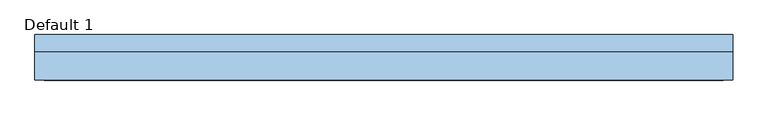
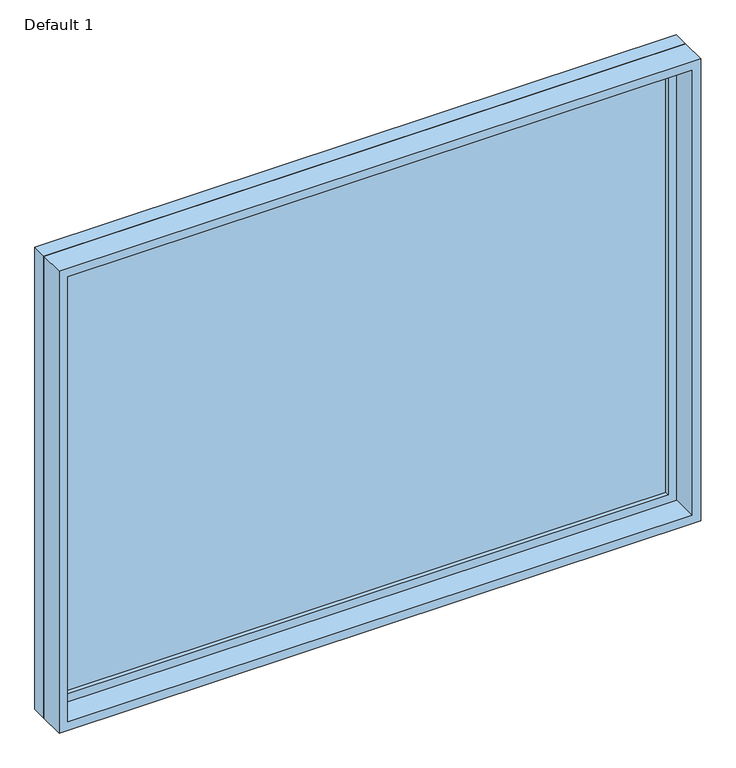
"""IFC4 building model written with IfcOpenShell, lengths in millimetres: window geometry, Planitar-Fixed : Default 1."""

import ifcopenshell
import ifcopenshell.guid

model = None  # the IFC model being written
_history = None  # IfcOwnerHistory: only IFC2X3 demands one
_inside = {}  # id of a spatial element -> (the spatial element, [elements in it])
_under = {}  # id of a project, library or spatial element -> (it, [spatial elements below it])
_declared = {}  # id of a project -> (the project, [libraries it declares])
_typed = {}  # id of a type object -> (the type object, [elements of that type])
_made_of = {}  # id of a material, layer set ... -> (it, [elements and type objects made of it])


def new_model(schema):
    """Start an empty IFC model of exactly this schema.

    Asked for "IFC4X3", IfcOpenShell would pick the latest addendum, in which some entities
    have other attributes; the version numbers below select the first issue.
    IFC2X3 requires an IfcOwnerHistory on every rooted entity: one is made here for all.
    """
    global model, _history
    if schema == "IFC4X3":
        model = ifcopenshell.file(schema_version=(4, 3, 0, 0))
    else:
        model = ifcopenshell.file(schema=schema)
    _inside.clear()
    _under.clear()
    _declared.clear()
    _typed.clear()
    _made_of.clear()
    _history = None
    if model.schema == "IFC2X3":
        org = make("IfcOrganization", Name="unknown")
        user = make(
            "IfcPersonAndOrganization",
            ThePerson=make("IfcPerson", FamilyName="unknown"),
            TheOrganization=org,
        )
        app = make(
            "IfcApplication",
            ApplicationDeveloper=org,
            Version="unknown",
            ApplicationFullName="unknown",
            ApplicationIdentifier="unknown",
        )
        _history = make(
            "IfcOwnerHistory",
            OwningUser=user,
            OwningApplication=app,
            ChangeAction="ADDED",
            CreationDate=0,
        )
    return model


def make(cls, **values):
    """One entity of the class cls with the attributes given. An attribute that is None is left unset."""
    return model.create_entity(
        cls, **{name: value for name, value in values.items() if value is not None}
    )


def rooted(cls, **values):
    """An entity with a GlobalId (a new one), such as an element, a storey or a relation."""
    return make(cls, GlobalId=ifcopenshell.guid.new(), OwnerHistory=_history, **values)


def si_unit(unit_type, name, prefix=None):
    """IfcSIUnit, for example si_unit("LENGTHUNIT", "METRE", prefix="MILLI")."""
    return make("IfcSIUnit", UnitType=unit_type, Prefix=prefix, Name=name)


def assignment(units):
    """IfcUnitAssignment: the units of a project."""
    return None if units is None else make("IfcUnitAssignment", Units=units)


def point(xyz):
    """IfcCartesianPoint."""
    return None if xyz is None else make("IfcCartesianPoint", Coordinates=xyz)


def direction(xyz):
    """IfcDirection."""
    return None if xyz is None else make("IfcDirection", DirectionRatios=xyz)


def frame(location, z_axis=None, x_axis=None):
    """IfcAxis2Placement3D, a coordinate frame: its origin and axes. An axis left out is left unset."""
    return make(
        "IfcAxis2Placement3D",
        Location=point(location),
        Axis=direction(z_axis),
        RefDirection=direction(x_axis),
    )


def origin():
    """The frame at (0, 0, 0) with its axes left unset."""
    return frame((0.0, 0.0, 0.0))


def place(relative_to, where):
    """IfcLocalPlacement: puts the frame where relative to a parent placement (None: the world)."""
    return make(
        "IfcLocalPlacement", PlacementRelTo=relative_to, RelativePlacement=where
    )


def context(
    kind, dimensions, precision=None, world=None, true_north=None, identifier=None
):
    """IfcGeometricRepresentationContext, for example the 3D "Model" context."""
    return make(
        "IfcGeometricRepresentationContext",
        ContextIdentifier=identifier,
        ContextType=kind,
        CoordinateSpaceDimension=dimensions,
        Precision=precision,
        WorldCoordinateSystem=world,
        TrueNorth=true_north,
    )


def project(units=None, contexts=None):
    """IfcProject with its units and contexts."""
    return rooted(
        "IfcProject",
        Name="project",
        RepresentationContexts=contexts,
        UnitsInContext=assignment(units),
    )


def spatial(cls, under=None, at=None, **own):
    """A site, building, storey or space (cls), placed at a placement, below another one or the project."""
    s = rooted(cls, ObjectPlacement=at, **own)
    if under is not None:
        _under.setdefault(under.id(), (under, []))[1].append(s)
    return s


def polyline(points):
    """IfcPolyline through the points."""
    return make("IfcPolyline", Points=[point(p) for p in points])


def outline(outer, holes=None, kind="AREA"):
    """IfcArbitraryClosedProfileDef: a profile drawn as a closed curve; with holes, ...WithVoids."""
    if holes is None:
        return make("IfcArbitraryClosedProfileDef", ProfileType=kind, OuterCurve=outer)
    return make(
        "IfcArbitraryProfileDefWithVoids",
        ProfileType=kind,
        OuterCurve=outer,
        InnerCurves=holes,
    )


def extrude(swept, where, along, depth):
    """IfcExtrudedAreaSolid: the profile swept, set in the frame where, extruded along a direction by depth."""
    return make(
        "IfcExtrudedAreaSolid",
        SweptArea=swept,
        Position=where,
        ExtrudedDirection=direction(along),
        Depth=depth,
    )


def shape(context_of_items, identifier, shape_type, items):
    """IfcShapeRepresentation: the items that make up one representation, for example the "Body"."""
    return make(
        "IfcShapeRepresentation",
        ContextOfItems=context_of_items,
        RepresentationIdentifier=identifier,
        RepresentationType=shape_type,
        Items=items,
    )


def source(mapping_origin, context_of_items, identifier, shape_type, items):
    """IfcRepresentationMap: a shape defined once, which mapped items show again and again."""
    return make(
        "IfcRepresentationMap",
        MappingOrigin=mapping_origin,
        MappedRepresentation=shape(context_of_items, identifier, shape_type, items),
    )


def transform(
    local_origin,
    x_axis=None,
    y_axis=None,
    z_axis=None,
    scale=None,
    scale2=None,
    scale3=None,
    uniform=True,
):
    """IfcCartesianTransformationOperator3D, or its non-uniform kind. x_axis, y_axis, z_axis: its Axis1, 2, 3."""
    if uniform:
        return make(
            "IfcCartesianTransformationOperator3D",
            Axis1=direction(x_axis),
            Axis2=direction(y_axis),
            LocalOrigin=point(local_origin),
            Scale=scale,
            Axis3=direction(z_axis),
        )
    return make(
        "IfcCartesianTransformationOperator3DnonUniform",
        Axis1=direction(x_axis),
        Axis2=direction(y_axis),
        LocalOrigin=point(local_origin),
        Scale=scale,
        Axis3=direction(z_axis),
        Scale2=scale2,
        Scale3=scale3,
    )


def mapped(mapping_source, mapping_target):
    """IfcMappedItem: shows the shape of a source again, moved by a transform."""
    return make(
        "IfcMappedItem", MappingSource=mapping_source, MappingTarget=mapping_target
    )


def made_of(thing, what):
    """Note that an element or type object is made of a material, layer set ...; save() writes the relation."""
    if what is not None:
        _made_of.setdefault(what.id(), (what, []))[1].append(thing)
    return thing


def element(
    cls,
    number,
    at=None,
    inside=None,
    cuts=None,
    type_object=None,
    material=None,
    context=None,
    identifier="Body",
    shape_type=None,
    held_by="IfcProductDefinitionShape",
    body=None,
    shapes=None,
    **own,
):
    """One element of the class cls, such as IfcWall. Its Tag is "e" and its number.

    at: its placement. inside: the storey or other place that contains it. cuts: it is an
    opening in that element (IfcRelVoidsElement). A single representation is given by context,
    identifier, shape_type and body (its items); several are given by shapes. held_by: the class
    of the entity that holds the representations. save() writes the other relations.
    """
    e = rooted(cls, Tag="e%d" % number, ObjectPlacement=at, **own)
    if body is not None:
        shapes = [shape(context, identifier, shape_type, body)]
    if shapes is not None:
        e.Representation = make(held_by, Representations=shapes)
    if inside is not None:
        _inside.setdefault(inside.id(), (inside, []))[1].append(e)
    if cuts is not None:
        rooted(
            "IfcRelVoidsElement", RelatingBuildingElement=cuts, RelatedOpeningElement=e
        )
    if type_object is not None:
        _typed.setdefault(type_object.id(), (type_object, []))[1].append(e)
    return made_of(e, material)


def aggregate(whole, parts):
    """IfcRelAggregates: a whole, such as a stair, and the parts it consists of."""
    return rooted("IfcRelAggregates", RelatingObject=whole, RelatedObjects=parts)


def save(model, path):
    """Write the relations noted so far, then the file.

    IfcRelAggregates (storeys below a building ...), IfcRelContainedInSpatialStructure (elements
    in a storey), IfcRelDefinesByType, IfcRelAssociatesMaterial and IfcRelDeclares: one each for
    every whole, place, type object, material and project.
    """
    for whole, parts in _under.values():
        aggregate(whole, parts)
    for where, things in _inside.values():
        rooted(
            "IfcRelContainedInSpatialStructure",
            RelatedElements=things,
            RelatingStructure=where,
        )
    for kind, things in _typed.values():
        rooted("IfcRelDefinesByType", RelatedObjects=things, RelatingType=kind)
    for what, things in _made_of.values():
        rooted("IfcRelAssociatesMaterial", RelatedObjects=things, RelatingMaterial=what)
    for by, libraries in _declared.values():
        rooted("IfcRelDeclares", RelatingContext=by, RelatedDefinitions=libraries)
    model.write(path)


def default_1_657b135e(model_context):
    return source(origin(), model_context, "Body", "SweptSolid", [
        extrude(outline(polyline([(2673.4, -1149.4), (933.4, -1149.4), (933.4, 1149.4), (2673.4, 1149.4), (2673.4, -1149.4)]), holes=[polyline([(2629.4, -1105.4), (2629.4, 1105.4), (977.4, 1105.4), (977.4, -1105.4), (2629.4, -1105.4)])]), frame((0.0, 32.5, 0.0), z_axis=(0.0, 1.0, 0.0), x_axis=(0.0, 0.0, 1.0)), (0.0, 0.0, 1.0), 44.0),
        extrude(outline(polyline([(2692.4, -1168.4), (914.4, -1168.4), (914.4, 1168.4), (2692.4, 1168.4), (2692.4, -1168.4)]), holes=[polyline([(2673.4, -1149.4), (2673.4, 1149.4), (933.4, 1149.4), (933.4, -1149.4), (2673.4, -1149.4)])]), frame((0.0, 32.5, 0.0), z_axis=(0.0, 1.0, 0.0), x_axis=(0.0, 0.0, 1.0)), (0.0, 0.0, 1.0), 56.7),
        extrude(outline(polyline([(2692.4, -1168.4), (914.4, -1168.4), (914.4, 1168.4), (2692.4, 1168.4), (2692.4, -1168.4)]), holes=[polyline([(2660.4, -1136.4), (2660.4, 1136.4), (946.4, 1136.4), (946.4, -1136.4), (2660.4, -1136.4)])]), frame((0.0, -63.2, 0.0), z_axis=(0.0, 1.0, 0.0), x_axis=(0.0, 0.0, 1.0)), (0.0, 0.0, 1.0), 95.7),
        extrude(outline(polyline([(-1105.4, 60.5), (1105.4, 60.5), (1105.4, 48.5), (-1105.4, 48.5), (-1105.4, 60.5)])), frame((0.0, 0.0, 977.4), z_axis=(0.0, 0.0, 1.0), x_axis=(1.0, 0.0, 0.0)), (0.0, 0.0, 1.0), 1652.0),
    ])


if __name__ == "__main__":
    model = new_model("IFC4")
    model_context = context("Model", 3, world=origin())
    ifc_project = project(units=[si_unit("LENGTHUNIT", "METRE", prefix="MILLI")], contexts=[model_context])
    site = spatial("IfcSite", under=ifc_project)
    building = spatial("IfcBuilding", under=site)
    placement = place(None, origin())
    default_1_shape = default_1_657b135e(model_context)
    element("IfcWindow", 1, ObjectType="Planitar-Fixed : Default 1", at=placement, inside=building, context=model_context, shape_type="MappedRepresentation", body=[
        mapped(default_1_shape, transform((0.0, 0.0, 0.0), x_axis=(1.0, 0.0, 0.0), y_axis=(0.0, 1.0, 0.0), z_axis=(0.0, 0.0, 1.0))),
    ])
    save(model, "model.ifc")
